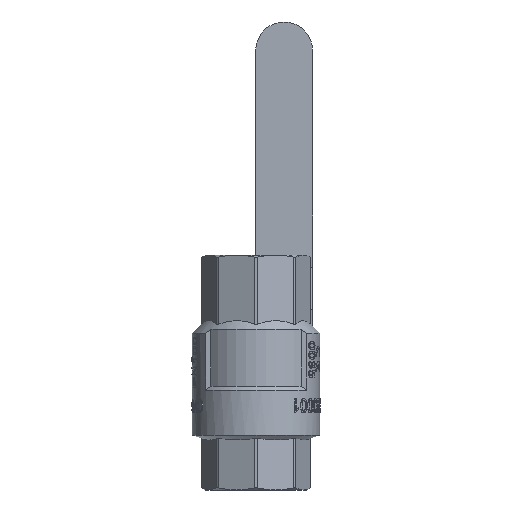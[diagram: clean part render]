
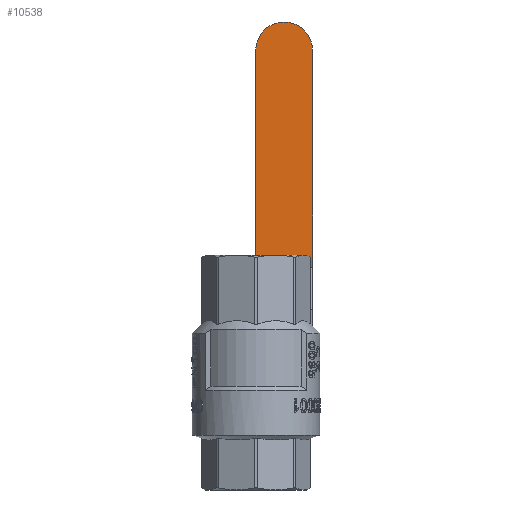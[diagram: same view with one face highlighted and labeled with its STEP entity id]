
A CAD part, front view. The second image highlights one B-rep face of the part: STEP entity #10538.
In plain terms, the highlighted planar face has unit normal (0, -1, 0).
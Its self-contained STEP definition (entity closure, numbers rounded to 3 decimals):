
#546=PLANE('',#11164);
#787=CIRCLE('',#11142,7.25);
#1451=FACE_OUTER_BOUND('',#2095,.T.);
#2095=EDGE_LOOP('',(#9653,#9654,#9655,#9656));
#3347=LINE('',#28212,#4042);
#3348=LINE('',#28215,#4043);
#3359=LINE('',#28242,#4054);
#4042=VECTOR('',#13031,10.);
#4043=VECTOR('',#13034,10.);
#4054=VECTOR('',#13061,10.);
#5062=VERTEX_POINT('',#28161);
#5063=VERTEX_POINT('',#28162);
#5077=VERTEX_POINT('',#28199);
#5083=VERTEX_POINT('',#28214);
#6612=EDGE_CURVE('',#5062,#5063,#787,.T.);
#6637=EDGE_CURVE('',#5077,#5062,#3347,.T.);
#6638=EDGE_CURVE('',#5063,#5083,#3348,.T.);
#6653=EDGE_CURVE('',#5083,#5077,#3359,.T.);
#9653=ORIENTED_EDGE('',*,*,#6637,.T.);
#9654=ORIENTED_EDGE('',*,*,#6612,.T.);
#9655=ORIENTED_EDGE('',*,*,#6638,.T.);
#9656=ORIENTED_EDGE('',*,*,#6653,.T.);
#10538=ADVANCED_FACE('',(#1451),#546,.T.);
#11142=AXIS2_PLACEMENT_3D('',#28163,#12987,#12988);
#11164=AXIS2_PLACEMENT_3D('',#28241,#13059,#13060);
#12987=DIRECTION('center_axis',(0.,-1.,0.));
#12988=DIRECTION('ref_axis',(-1.,0.,0.));
#13031=DIRECTION('',(0.,0.,1.));
#13034=DIRECTION('',(0.,0.,-1.));
#13059=DIRECTION('center_axis',(0.,-1.,0.));
#13060=DIRECTION('ref_axis',(0.,0.,-1.));
#13061=DIRECTION('',(1.,0.,0.));
#28161=CARTESIAN_POINT('',(14.443,41.645,82.13));
#28162=CARTESIAN_POINT('',(-0.057,41.645,82.13));
#28163=CARTESIAN_POINT('Origin',(7.193,41.645,82.13));
#28199=CARTESIAN_POINT('',(14.443,41.645,26.75));
#28212=CARTESIAN_POINT('',(14.443,41.645,51.037));
#28214=CARTESIAN_POINT('',(-0.057,41.645,26.75));
#28215=CARTESIAN_POINT('',(-0.057,41.645,86.695));
#28241=CARTESIAN_POINT('Origin',(0.,41.645,91.26));
#28242=CARTESIAN_POINT('',(0.,41.645,26.75));
